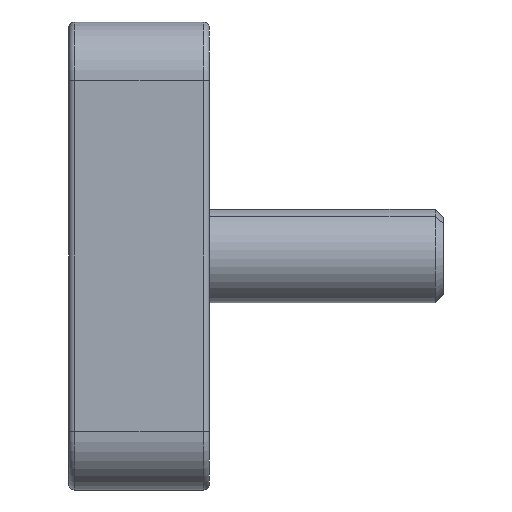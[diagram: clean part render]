
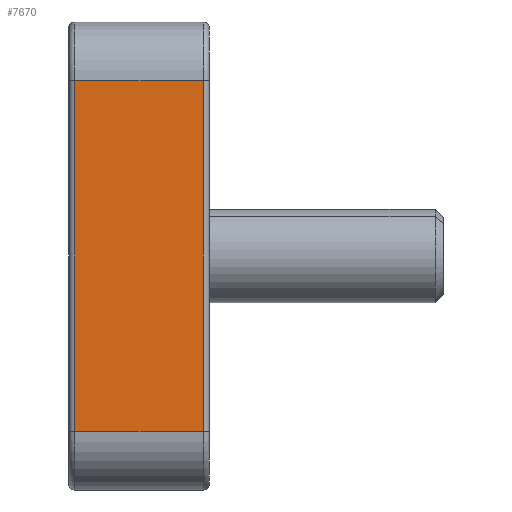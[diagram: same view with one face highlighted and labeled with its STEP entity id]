
A CAD part, left-side view. The second image highlights one B-rep face of the part: STEP entity #7670.
In plain terms, the highlighted planar face has unit normal (-1, 0, 0).
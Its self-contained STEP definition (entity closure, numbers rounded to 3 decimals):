
#724 = PLANE ( 'NONE',  #3586 ) ;
#729 = VECTOR ( 'NONE', #8391, 1000. ) ;
#772 = FACE_OUTER_BOUND ( 'NONE', #3000, .T. ) ;
#1090 = DIRECTION ( 'NONE',  ( 0., -1., 0. ) ) ;
#1801 = ORIENTED_EDGE ( 'NONE', *, *, #3324, .T. ) ;
#2659 = ORIENTED_EDGE ( 'NONE', *, *, #9843, .T. ) ;
#3000 = EDGE_LOOP ( 'NONE', ( #10713, #11502, #2659, #1801 ) ) ;
#3189 = CARTESIAN_POINT ( 'NONE',  ( 586.894, 889.834, 1260.465 ) ) ;
#3324 = EDGE_CURVE ( 'NONE', #4589, #6723, #3944, .T. ) ;
#3586 = AXIS2_PLACEMENT_3D ( 'NONE', #6770, #4228, #5086 ) ;
#3910 = CARTESIAN_POINT ( 'NONE',  ( 586.894, 878.834, 1290.465 ) ) ;
#3944 = LINE ( 'NONE', #5641, #8745 ) ;
#3991 = LINE ( 'NONE', #6445, #8327 ) ;
#4129 = CARTESIAN_POINT ( 'NONE',  ( 586.894, 890.334, 1260.465 ) ) ;
#4228 = DIRECTION ( 'NONE',  ( 1., 0., 0. ) ) ;
#4589 = VERTEX_POINT ( 'NONE', #9340 ) ;
#4933 = LINE ( 'NONE', #8454, #9347 ) ;
#5086 = DIRECTION ( 'NONE',  ( 0., 0., -1. ) ) ;
#5641 = CARTESIAN_POINT ( 'NONE',  ( 586.894, 878.834, 1290.465 ) ) ;
#6445 = CARTESIAN_POINT ( 'NONE',  ( 586.894, 890.334, 1290.465 ) ) ;
#6623 = DIRECTION ( 'NONE',  ( 0., 0., 1. ) ) ;
#6723 = VERTEX_POINT ( 'NONE', #3910 ) ;
#6770 = CARTESIAN_POINT ( 'NONE',  ( 586.894, 890.334, 1290.465 ) ) ;
#7157 = VERTEX_POINT ( 'NONE', #3189 ) ;
#7670 = ADVANCED_FACE ( 'NONE', ( #772 ), #724, .F. ) ;
#8200 = EDGE_CURVE ( 'NONE', #11055, #7157, #4933, .T. ) ;
#8327 = VECTOR ( 'NONE', #1090, 1000. ) ;
#8340 = LINE ( 'NONE', #4129, #729 ) ;
#8391 = DIRECTION ( 'NONE',  ( 0., -1., 0. ) ) ;
#8454 = CARTESIAN_POINT ( 'NONE',  ( 586.894, 889.834, 1260.465 ) ) ;
#8745 = VECTOR ( 'NONE', #6623, 1000. ) ;
#8983 = EDGE_CURVE ( 'NONE', #11055, #6723, #3991, .T. ) ;
#9340 = CARTESIAN_POINT ( 'NONE',  ( 586.894, 878.834, 1260.465 ) ) ;
#9347 = VECTOR ( 'NONE', #11154, 1000. ) ;
#9843 = EDGE_CURVE ( 'NONE', #7157, #4589, #8340, .T. ) ;
#10713 = ORIENTED_EDGE ( 'NONE', *, *, #8983, .F. ) ;
#10724 = CARTESIAN_POINT ( 'NONE',  ( 586.894, 889.834, 1290.465 ) ) ;
#11055 = VERTEX_POINT ( 'NONE', #10724 ) ;
#11154 = DIRECTION ( 'NONE',  ( 0., 0., -1. ) ) ;
#11502 = ORIENTED_EDGE ( 'NONE', *, *, #8200, .T. ) ;
